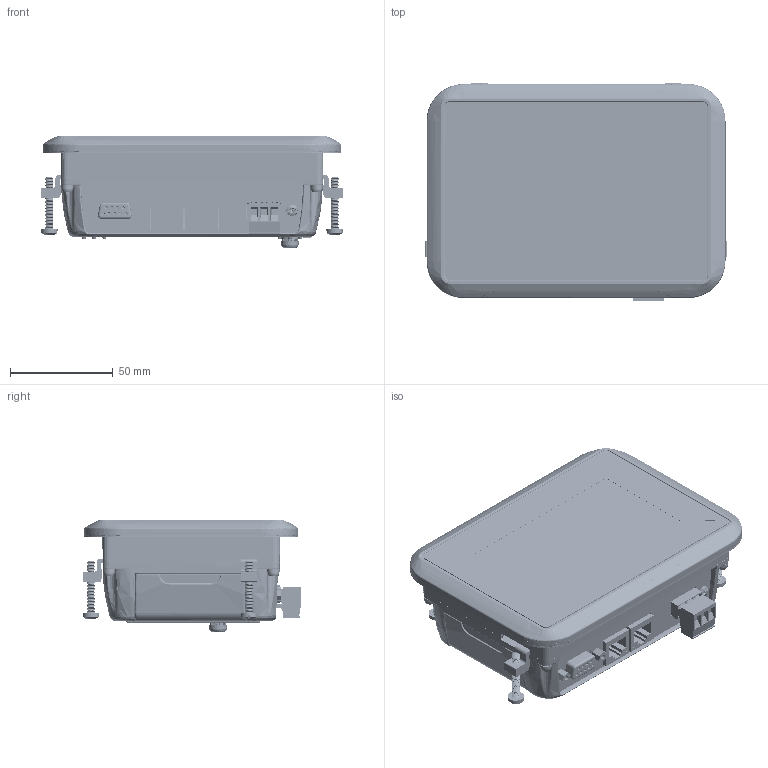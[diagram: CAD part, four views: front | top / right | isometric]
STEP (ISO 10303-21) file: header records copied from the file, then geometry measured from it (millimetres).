
FILE_DESCRIPTION (( 'STEP AP203' ), '1' );
FILE_NAME ('X2_4-B2_FinalAssy.STEP', '2016-01-18T18:54:59', ( 'user' ), ( 'Microsoft' ), 'SwSTEP 2.0', 'SolidWorks 2015', '' );
FILE_SCHEMA (( 'CONFIG_CONTROL_DESIGN' ));
Products named in the file (2): X2_4-B2_FinalAssy
Bounding box: 146.56 x 106.23 x 54.05 mm (x, y, z)
Volume: 198886.3 mm3; surface area: 226346 mm2
Topology: 69 solids, 69 shells, 8451 faces, 20927 edges, 12694 vertices
Faces by surface type: cylinder 2708, plane 2679, bspline 1570, cone 1439, torus 55
Entity records: 331718 total; most frequent: CARTESIAN_POINT 143947, ORIENTED_EDGE 41490, DIRECTION 36149, EDGE_CURVE 20745, AXIS2_PLACEMENT_3D 13143, VERTEX_POINT 12694, LINE 9863, VECTOR 9863
